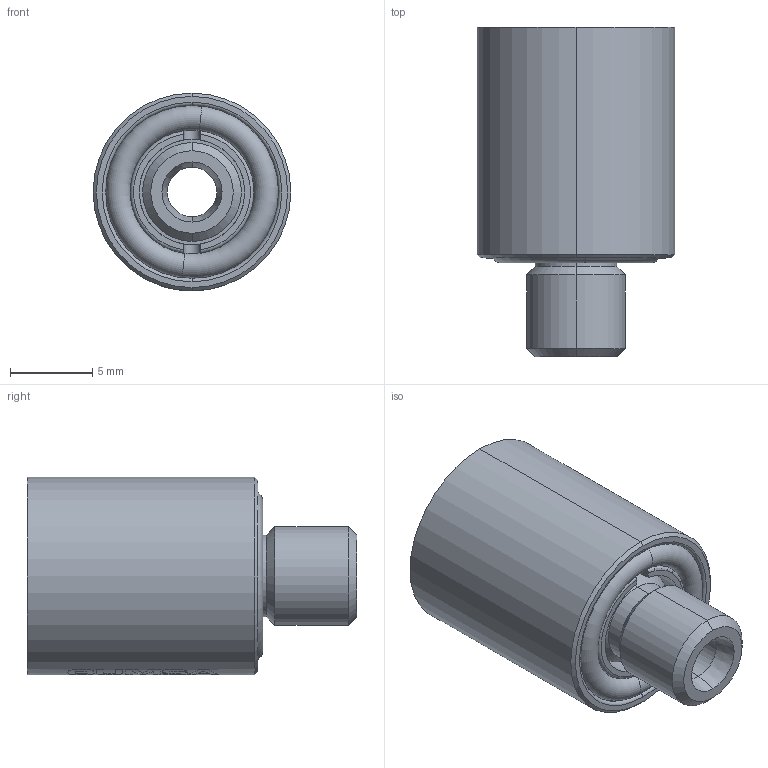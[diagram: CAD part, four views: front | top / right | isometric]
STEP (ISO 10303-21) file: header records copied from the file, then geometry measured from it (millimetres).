
FILE_DESCRIPTION (( 'STEP AP214' ), '1' );
FILE_NAME ('SA120314.STEP', '2018-04-09T09:58:43', ( '' ), ( '' ), 'SwSTEP 2.0', 'SolidWorks 2017', '' );
FILE_SCHEMA (( 'AUTOMOTIVE_DESIGN' ));
Length unit declared in the file: millimetre
Products named in the file (5): 9SA120314-I; SA120314; 9SA120014-T; 9SA120014-C_acabado; JT7.5x1.5
Assembly tree (4 placements, depth 2):
  SA120314
    9SA120014-C_acabado
    9SA120314-I
    9SA120014-T
    JT7.5x1.5
Bounding box: 12 x 20 x 12 mm (x, y, z)
Volume: 1502.7 mm3; surface area: 2005.2 mm2
Topology: 4 solids, 4 shells, 431 faces, 1171 edges, 768 vertices
Faces by surface type: bspline 223, plane 114, cylinder 56, cone 24, torus 14
Entity records: 25189 total; most frequent: CARTESIAN_POINT 12436, ORIENTED_EDGE 2342, EDGE_CURVE 1171, DIRECTION 969, B_SPLINE_CURVE_WITH_KNOTS 775, VERTEX_POINT 768, EDGE_LOOP 459, ADVANCED_FACE 431
